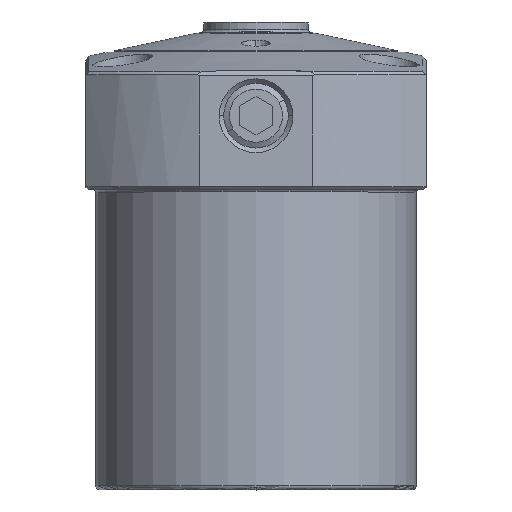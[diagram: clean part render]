
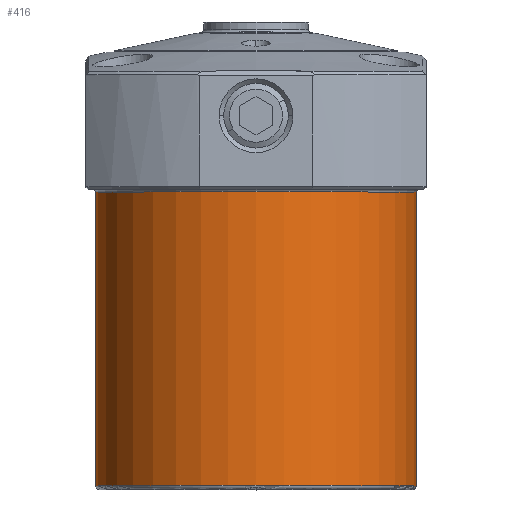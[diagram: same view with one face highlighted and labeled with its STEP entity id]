
A CAD part, top view. The second image highlights one B-rep face of the part: STEP entity #416.
In plain terms, the highlighted cylindrical face has radius 24 mm (diameter 48 mm), a partial arc.
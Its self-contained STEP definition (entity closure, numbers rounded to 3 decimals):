
#324=CYLINDRICAL_SURFACE('',#3149,24.);
#416=ADVANCED_FACE('',(#663),#324,.T.);
#663=FACE_OUTER_BOUND('',#834,.T.);
#834=EDGE_LOOP('',(#1415,#1416,#1417,#1418));
#1059=CIRCLE('',#3110,24.);
#1084=CIRCLE('',#3148,24.);
#1415=ORIENTED_EDGE('',*,*,#2417,.T.);
#1416=ORIENTED_EDGE('',*,*,#2464,.F.);
#1417=ORIENTED_EDGE('',*,*,#2465,.T.);
#1418=ORIENTED_EDGE('',*,*,#2466,.T.);
#2145=VERTEX_POINT('',#4742);
#2146=VERTEX_POINT('',#4744);
#2149=VERTEX_POINT('',#4751);
#2150=VERTEX_POINT('',#4753);
#2417=EDGE_CURVE('',#2150,#2149,#1059,.T.);
#2464=EDGE_CURVE('',#2145,#2149,#2790,.T.);
#2465=EDGE_CURVE('',#2145,#2146,#1084,.T.);
#2466=EDGE_CURVE('',#2146,#2150,#2791,.T.);
#2790=LINE('',#4913,#2951);
#2791=LINE('',#4915,#2952);
#2951=VECTOR('',#3766,1.);
#2952=VECTOR('',#3769,1.);
#3110=AXIS2_PLACEMENT_3D('',#4752,#3670,#3671);
#3148=AXIS2_PLACEMENT_3D('',#4914,#3767,#3768);
#3149=AXIS2_PLACEMENT_3D('',#4916,#3770,#3771);
#3670=DIRECTION('',(0.,1.,0.));
#3671=DIRECTION('',(-1.,0.,0.));
#3766=DIRECTION('',(0.,-1.,0.));
#3767=DIRECTION('',(0.,-1.,0.));
#3768=DIRECTION('',(-1.,0.,0.));
#3769=DIRECTION('',(0.,-1.,0.));
#3770=DIRECTION('',(0.,1.,0.));
#3771=DIRECTION('',(1.,0.,0.));
#4742=CARTESIAN_POINT('',(24.,44.4,0.));
#4744=CARTESIAN_POINT('',(-24.,44.4,0.));
#4751=CARTESIAN_POINT('',(24.,0.4,0.));
#4752=CARTESIAN_POINT('',(0.,0.4,0.));
#4753=CARTESIAN_POINT('',(-24.,0.4,0.));
#4913=CARTESIAN_POINT('',(24.,69.9,0.));
#4914=CARTESIAN_POINT('',(0.,44.4,0.));
#4915=CARTESIAN_POINT('',(-24.,69.9,0.));
#4916=CARTESIAN_POINT('',(0.,69.9,0.));
